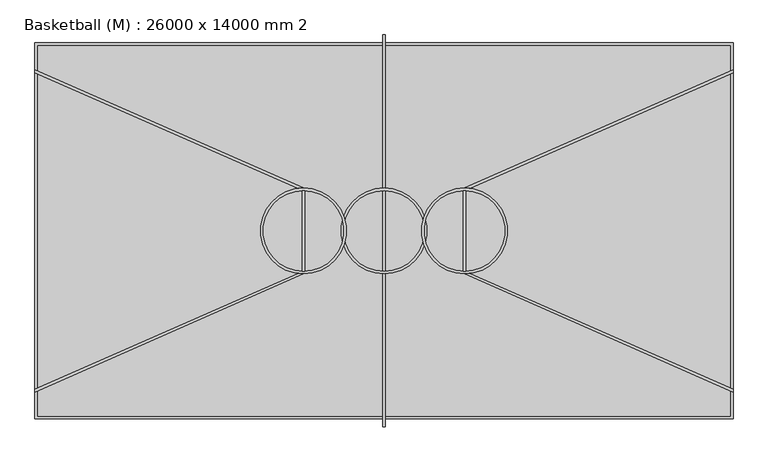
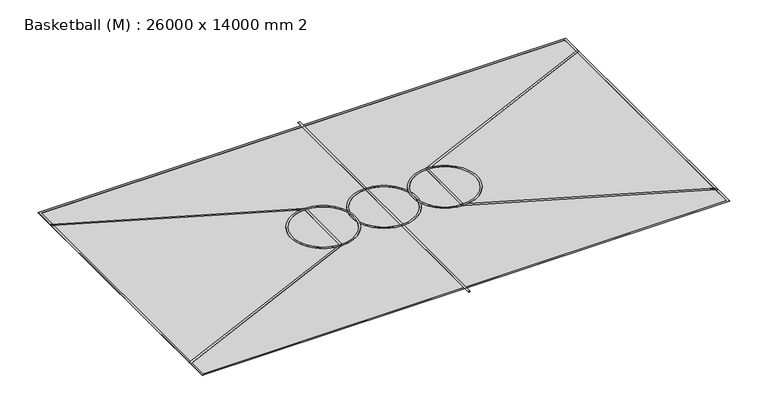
"""IFC4 building model written with IfcOpenShell, lengths in millimetres: geographic element geometry, Basketball (M) : 26000 x 14000 mm 2."""

from ifc_helpers import new_model, si_unit, point, frame, frame_2d, origin, origin_with_axes, origin_2d, place, context, project, spatial, polyline, circle_curve, trimmed, segment, composite_curve, outline, extrude, source, transform, mapped, element, save


def basketball_m_26000_x_14000_mm_2_9674ccca(model_context):
    return source(origin(), model_context, "Body", "SweptSolid", [
        extrude(outline(composite_curve([segment(trimmed(circle_curve(frame_2d((-1500.0, 0.0)), 800.0), [point((-1500.0, 800.0))], [point((-1607.622364, 792.727839))], True, "CARTESIAN"), True, "CONTINUOUS"), segment(polyline([(-1607.622364, 792.727839), (-6500.0, 2945.3739989), (-6500.0, 3000.0), (-1500.0, 800.0)]), True, "CONTINUOUS")], self_intersect=False)), frame((0.0, 0.0, 2.0), z_axis=(0.0, 0.0, 1.0), x_axis=(1.0, 0.0, 0.0)), (0.0, 0.0, 1.0), 2.0),
        extrude(outline(composite_curve([segment(polyline([(-1500.0, -800.0), (-6500.0, -3000.0), (-6500.0, -2945.3739989), (-1607.622364, -792.727839)]), True, "CONTINUOUS"), segment(trimmed(circle_curve(frame_2d((-1500.0, 0.0)), 800.0), [point((-1607.622364, -792.727839))], [point((-1500.0, -800.0))], True, "CARTESIAN"), True, "CONTINUOUS")], self_intersect=False)), frame((0.0, 0.0, 2.0), z_axis=(0.0, 0.0, 1.0), x_axis=(1.0, 0.0, 0.0)), (0.0, 0.0, 1.0), 2.0),
        extrude(outline(composite_curve([segment(polyline([(1500.0, 800.0), (6500.0, 3000.0), (6500.0, 2945.3739989), (1607.622364, 792.727839)]), True, "CONTINUOUS"), segment(trimmed(circle_curve(frame_2d((1500.0, 0.0)), 800.0), [point((1607.622364, 792.727839))], [point((1500.0, 800.0))], True, "CARTESIAN"), True, "CONTINUOUS")], self_intersect=False)), frame((0.0, 0.0, 2.0), z_axis=(0.0, 0.0, 1.0), x_axis=(1.0, 0.0, 0.0)), (0.0, 0.0, 1.0), 2.0),
        extrude(outline(composite_curve([segment(trimmed(circle_curve(frame_2d((1500.0, 0.0)), 800.0), [point((1500.0, -800.0))], [point((1607.622364, -792.727839))], True, "CARTESIAN"), True, "CONTINUOUS"), segment(polyline([(1607.622364, -792.727839), (6500.0, -2945.3739989), (6500.0, -3000.0), (1500.0, -800.0)]), True, "CONTINUOUS")], self_intersect=False)), frame((0.0, 0.0, 2.0), z_axis=(0.0, 0.0, 1.0), x_axis=(1.0, 0.0, 0.0)), (0.0, 0.0, 1.0), 2.0),
        extrude(outline(polyline([(1525.0, 750.0), (1525.0, -750.0), (1475.0, -750.0), (1475.0, 750.0), (1525.0, 750.0)])), frame((0.0, 0.0, 2.0), z_axis=(0.0, 0.0, 1.0), x_axis=(1.0, 0.0, 0.0)), (0.0, 0.0, 1.0), 2.0),
        extrude(outline(polyline([(-1525.0, 750.0), (-1475.0, 750.0), (-1475.0, -750.0), (-1525.0, -750.0), (-1525.0, 750.0)])), frame((0.0, 0.0, 2.0), z_axis=(0.0, 0.0, 1.0), x_axis=(1.0, 0.0, 0.0)), (0.0, 0.0, 1.0), 2.0),
        extrude(outline(composite_curve([segment(trimmed(circle_curve(frame_2d((-1500.0, 0.0)), 800.0), [point((-1500.0, -800.0))], [point((-1500.0, 800.0))], False, "CARTESIAN"), True, "CONTINUOUS"), segment(trimmed(circle_curve(frame_2d((-1500.0, 0.0)), 800.0), [point((-1500.0, 800.0))], [point((-1500.0, -800.0))], False, "CARTESIAN"), True, "CONTINUOUS")], self_intersect=False), holes=[composite_curve([segment(trimmed(circle_curve(frame_2d((-1500.0, 0.0)), 750.0), [point((-1500.0, -750.0))], [point((-1500.0, 750.0))], True, "CARTESIAN"), True, "CONTINUOUS"), segment(trimmed(circle_curve(frame_2d((-1500.0, 0.0)), 750.0), [point((-1500.0, 750.0))], [point((-1500.0, -750.0))], True, "CARTESIAN"), True, "CONTINUOUS")], self_intersect=False)]), frame((0.0, 0.0, 2.0), z_axis=(0.0, 0.0, 1.0), x_axis=(1.0, 0.0, 0.0)), (0.0, 0.0, 1.0), 2.0),
        extrude(outline(composite_curve([segment(trimmed(circle_curve(frame_2d((1500.0, 0.0)), 800.0), [point((1500.0, -800.0))], [point((1500.0, 800.0))], False, "CARTESIAN"), True, "CONTINUOUS"), segment(trimmed(circle_curve(frame_2d((1500.0, 0.0)), 800.0), [point((1500.0, 800.0))], [point((1500.0, -800.0))], False, "CARTESIAN"), True, "CONTINUOUS")], self_intersect=False), holes=[composite_curve([segment(trimmed(circle_curve(frame_2d((1500.0, 0.0)), 750.0), [point((1500.0, -750.0))], [point((1500.0, 750.0))], True, "CARTESIAN"), True, "CONTINUOUS"), segment(trimmed(circle_curve(frame_2d((1500.0, 0.0)), 750.0), [point((1500.0, 750.0))], [point((1500.0, -750.0))], True, "CARTESIAN"), True, "CONTINUOUS")], self_intersect=False)]), frame((0.0, 0.0, 2.0), z_axis=(0.0, 0.0, 1.0), x_axis=(1.0, 0.0, 0.0)), (0.0, 0.0, 1.0), 2.0),
        extrude(outline(composite_curve([segment(trimmed(circle_curve(origin_2d(), 800.0), [point((0.0, -800.0))], [point((0.0, 800.0))], False, "CARTESIAN"), True, "CONTINUOUS"), segment(trimmed(circle_curve(origin_2d(), 800.0), [point((0.0, 800.0))], [point((0.0, -800.0))], False, "CARTESIAN"), True, "CONTINUOUS")], self_intersect=False), holes=[composite_curve([segment(trimmed(circle_curve(origin_2d(), 750.0), [point((0.0, -750.0))], [point((0.0, 750.0))], True, "CARTESIAN"), True, "CONTINUOUS"), segment(trimmed(circle_curve(origin_2d(), 750.0), [point((0.0, 750.0))], [point((0.0, -750.0))], True, "CARTESIAN"), True, "CONTINUOUS")], self_intersect=False)]), frame((0.0, 0.0, 2.0), z_axis=(0.0, 0.0, 1.0), x_axis=(1.0, 0.0, 0.0)), (0.0, 0.0, 1.0), 2.0),
        extrude(outline(polyline([(-25.0, 3650.0), (25.0, 3650.0), (25.0, -3650.0), (-25.0, -3650.0), (-25.0, 3650.0)])), frame((0.0, 0.0, 2.0), z_axis=(0.0, 0.0, 1.0), x_axis=(1.0, 0.0, 0.0)), (0.0, 0.0, 1.0), 2.0),
        extrude(outline(polyline([(6500.0, 3500.0), (6500.0, -3500.0), (-6500.0, -3500.0), (-6500.0, 3500.0), (6500.0, 3500.0)]), holes=[polyline([(6450.0, 3450.0), (-6450.0, 3450.0), (-6450.0, -3450.0), (6450.0, -3450.0), (6450.0, 3450.0)])]), frame((0.0, 0.0, 2.0), z_axis=(0.0, 0.0, 1.0), x_axis=(1.0, 0.0, 0.0)), (0.0, 0.0, 1.0), 2.0),
        extrude(outline(polyline([(6500.0, 3500.0), (6500.0, -3500.0), (-6500.0, -3500.0), (-6500.0, 3500.0), (6500.0, 3500.0)])), origin_with_axes(), (0.0, 0.0, 1.0), 2.0),
    ])


if __name__ == "__main__":
    model = new_model("IFC4")
    model_context = context("Model", 3, world=origin())
    ifc_project = project(units=[si_unit("LENGTHUNIT", "METRE", prefix="MILLI")], contexts=[model_context])
    site = spatial("IfcSite", under=ifc_project)
    building = spatial("IfcBuilding", under=site)
    placement = place(None, origin())
    basketball_m_26000_x_14000_mm_2_shape = basketball_m_26000_x_14000_mm_2_9674ccca(model_context)
    element("IfcGeographicElement", 1, ObjectType="Basketball (M) : 26000 x 14000 mm 2", at=placement, inside=building, context=model_context, shape_type="MappedRepresentation", body=[
        mapped(basketball_m_26000_x_14000_mm_2_shape, transform((0.0, 0.0, 0.0), x_axis=(1.0, 0.0, 0.0), y_axis=(0.0, 1.0, 0.0), z_axis=(0.0, 0.0, 1.0))),
    ])
    save(model, "model.ifc")
